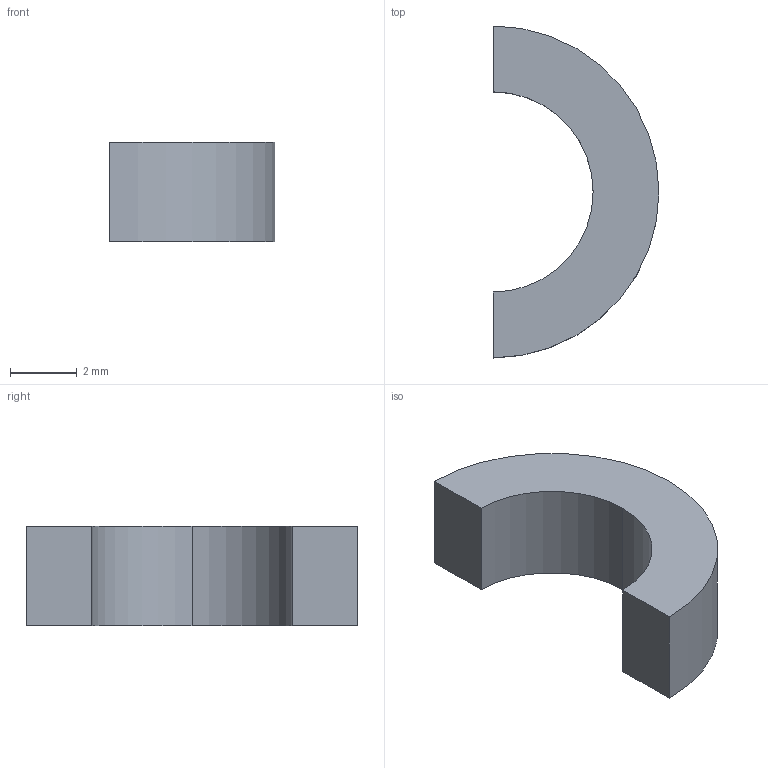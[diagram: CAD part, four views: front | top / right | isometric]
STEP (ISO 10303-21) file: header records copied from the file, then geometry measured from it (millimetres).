
FILE_DESCRIPTION(('Open CASCADE Model'),'2;1');
FILE_NAME('Open CASCADE Shape Model','2026-09-24T19:52:59',('Author'),( 'Open CASCADE'),'Open CASCADE STEP processor 7.8','Open CASCADE 7.8' ,'Unknown');
FILE_SCHEMA(('AUTOMOTIVE_DESIGN { 1 0 10303 214 1 1 1 1 }'));
Length unit declared in the file: millimetre
Products named in the file (1): Open CASCADE STEP translator 7.8 37
Bounding box: 4.99 x 9.98 x 3 mm (x, y, z)
Volume: 74.6 mm3; surface area: 137 mm2
Topology: 1 solids, 1 shells, 8 faces, 18 edges, 12 vertices
Faces by surface type: cylinder 4, plane 4
Entity records: 458 total; most frequent: CARTESIAN_POINT 91, DIRECTION 64, ORIENTED_EDGE 36, PCURVE 36, DEFINITIONAL_REPRESENTATION 36, LINE 22, VECTOR 22, EDGE_CURVE 18
